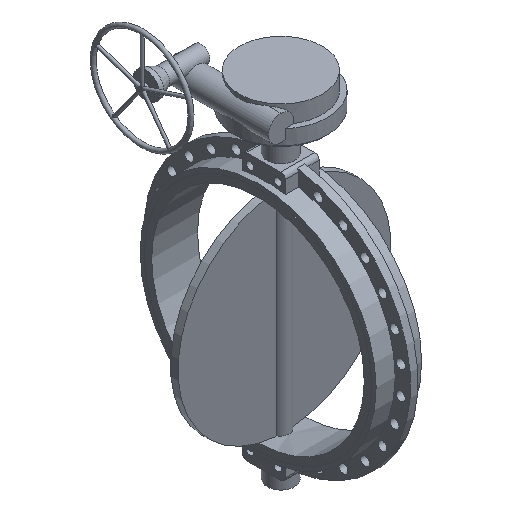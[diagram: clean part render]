
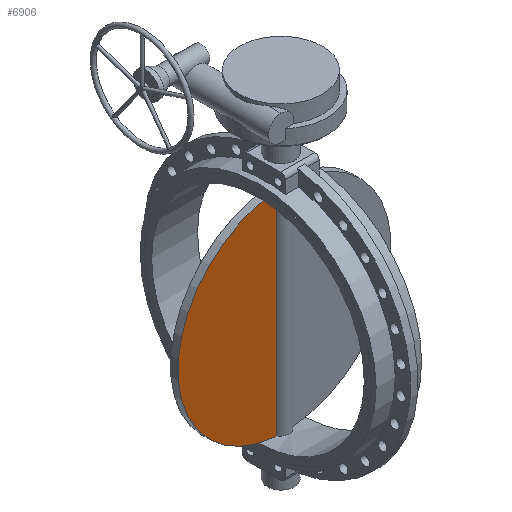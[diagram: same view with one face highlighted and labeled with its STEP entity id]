
A CAD part, isometric view. The second image highlights one B-rep face of the part: STEP entity #6906.
In plain terms, the highlighted planar face has unit normal (0, -1, 0).
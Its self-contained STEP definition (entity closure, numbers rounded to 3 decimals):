
#6906=ADVANCED_FACE('',(#12752),#12754,.T.);
#12752=FACE_BOUND('',#12753,.T.);
#12753=EDGE_LOOP('',(#17040,#17041,#17042,#17043));
#12754=PLANE('',#12755);
#12755=AXIS2_PLACEMENT_3D('',#12756,#12757,#12758);
#12756=CARTESIAN_POINT('',(0.,-17.5,0.));
#12757=DIRECTION('',(0.,-1.,0.));
#12758=DIRECTION('',(0.,0.,1.));
#17040=ORIENTED_EDGE('',*,*,#19213,.T.);
#17041=ORIENTED_EDGE('',*,*,#19182,.T.);
#17042=ORIENTED_EDGE('',*,*,#19212,.T.);
#17043=ORIENTED_EDGE('',*,*,#19202,.T.);
#19182=EDGE_CURVE('',#22708,#22706,#22709,.F.);
#19202=EDGE_CURVE('',#22726,#22746,#22748,.T.);
#19212=EDGE_CURVE('',#22706,#22726,#22764,.T.);
#19213=EDGE_CURVE('',#22746,#22708,#22765,.F.);
#22706=VERTEX_POINT('',#32232);
#22708=VERTEX_POINT('',#32248);
#22709=LINE('',#32249,#32250);
#22726=VERTEX_POINT('',#32437);
#22746=VERTEX_POINT('',#32658);
#22748=LINE('',#32688,#32689);
#22764=CIRCLE('',#33153,501.5);
#22765=LINE('',#33157,#33158);
#32232=CARTESIAN_POINT('',(-42.526,-17.5,499.694));
#32248=CARTESIAN_POINT('',(-35.969,-17.5,499.694));
#32249=CARTESIAN_POINT('',(-42.526,-17.5,499.694));
#32250=VECTOR('',#32251,1.);
#32251=DIRECTION('',(1.,0.,0.));
#32437=CARTESIAN_POINT('',(-42.526,-17.5,-499.694));
#32658=CARTESIAN_POINT('',(-35.969,-17.5,-499.694));
#32688=CARTESIAN_POINT('',(-42.526,-17.5,-499.694));
#32689=VECTOR('',#32690,1.);
#32690=DIRECTION('',(1.,0.,0.));
#33153=AXIS2_PLACEMENT_3D('',#33154,#33155,#33156);
#33154=CARTESIAN_POINT('',(0.,-17.5,0.));
#33155=DIRECTION('',(0.,-1.,0.));
#33156=DIRECTION('',(-0.085,0.,0.996));
#33157=CARTESIAN_POINT('',(-35.969,-17.5,499.694));
#33158=VECTOR('',#33159,1.);
#33159=DIRECTION('',(0.,0.,-1.));
